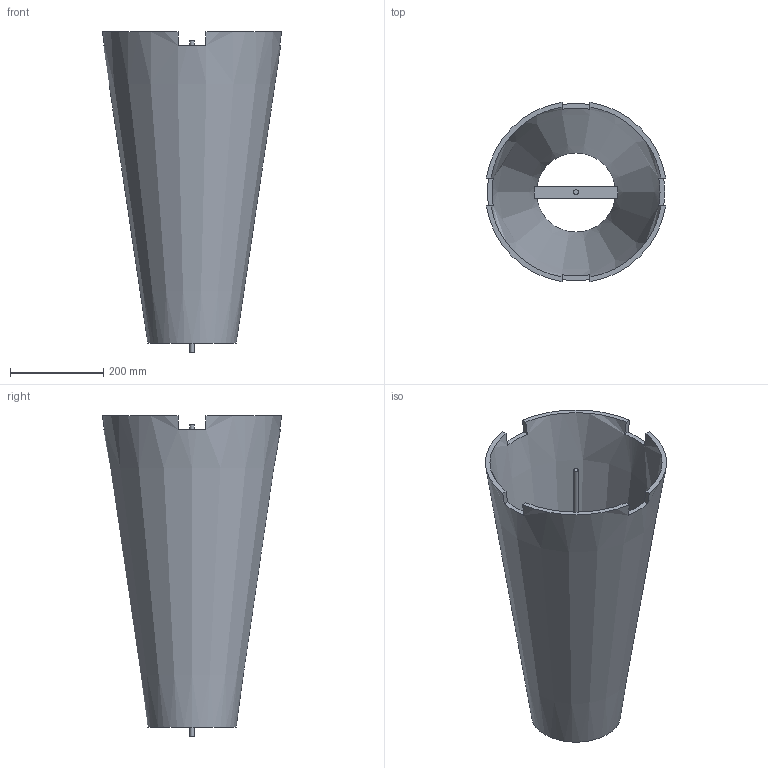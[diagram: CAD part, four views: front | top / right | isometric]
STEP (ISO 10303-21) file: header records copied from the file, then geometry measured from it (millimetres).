
FILE_DESCRIPTION( ( 'STEP AP214' ), '1' );
FILE_NAME( 'C:/Users/KOSH/Desktop/2021/Updated Delta/New folder/45829.stp', '2021-04-20T14:22:03', ( '' ), ( '' ), ' ', 'PARTsolutions', ' ' );
FILE_SCHEMA( ( 'AUTOMOTIVE_DESIGN { 1 0 10303 214 1 1 1 1 }' ) );
Length unit declared in the file: millimetre
Products named in the file (4): 146142319 45829_3; _45829_3; _45829_1; _45829_2
Assembly tree (3 placements, depth 2):
  146142319 45829_3
    _45829_3
    _45829_1
    _45829_2
Bounding box: 385.37 x 385.37 x 689 mm (x, y, z)
Volume: 5873340.4 mm3; surface area: 1228224.7 mm2
Topology: 3 solids, 3 shells, 32 faces, 81 edges, 54 vertices
Faces by surface type: plane 29, cone 2, cylinder 1
Full cylindrical faces by diameter (mm): 10 x1
Entity records: 1278 total; most frequent: CARTESIAN_POINT 212, DIRECTION 152, ORIENTED_EDGE 152, EDGE_CURVE 76, AXIS2_PLACEMENT_3D 56, VERTEX_POINT 52, LINE 40, VECTOR 40
